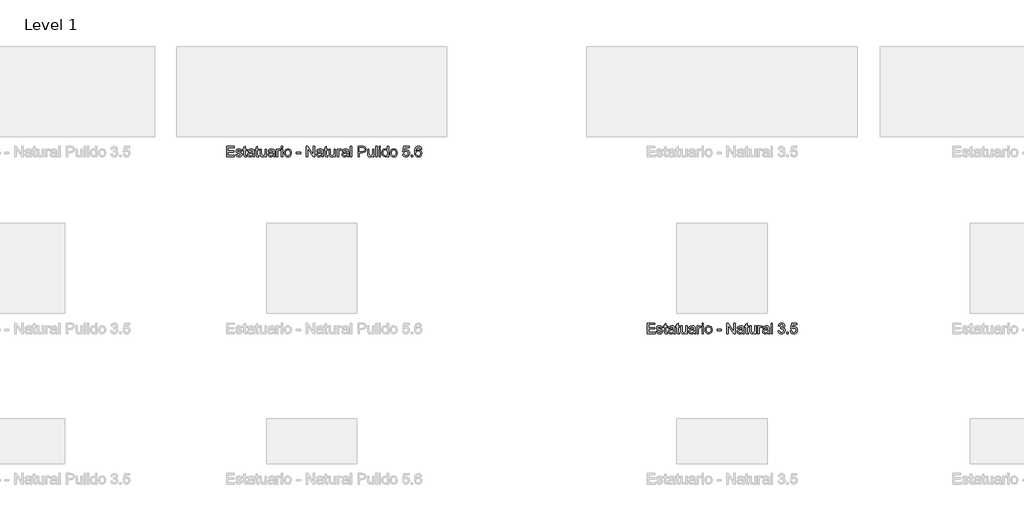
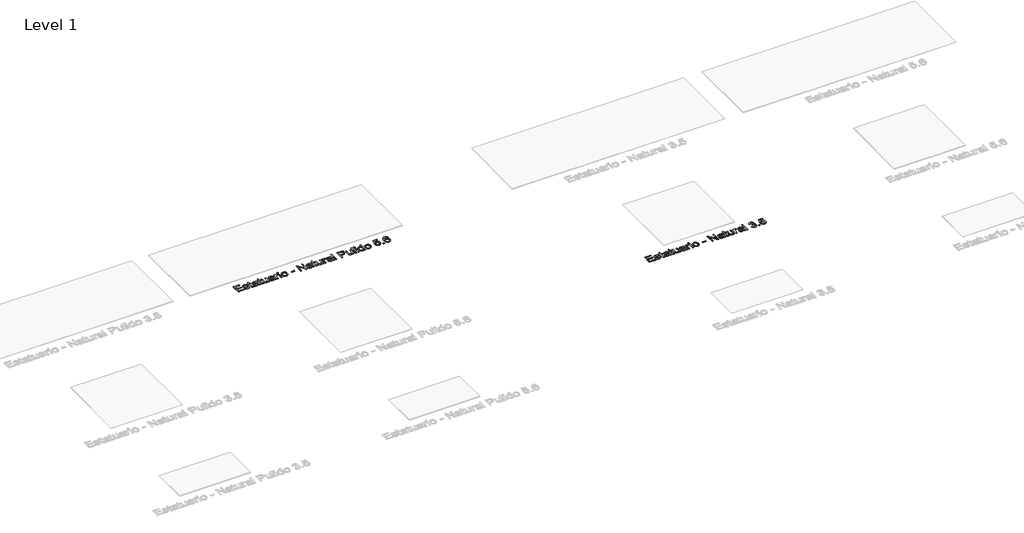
# One storey, part 78 of 80: 2 proxies.
"""IFC4 building model written with IfcOpenShell, lengths in millimetres."""

from ifc_helpers import new_model, si_unit, origin, origin_with_axes, place, context, project, spatial, polyline, outline, extrude, element, save

model = new_model("IFC4")

# Units and contexts
model_context = context("Model", 3, world=origin())
ifc_project = project(units=[si_unit("LENGTHUNIT", "METRE", prefix="MILLI")], contexts=[model_context])

# Site, building, storey
site = spatial("IfcSite", under=ifc_project)
building = spatial("IfcBuilding", under=site)
storey = spatial("IfcBuildingStorey", under=building, Name="Level 1", Elevation=0.0)

# Proxies
placement = place(None, origin())
element("IfcBuildingElementProxy", 1, Name="24\" Arial", ObjectType="24\" Arial", at=placement, inside=storey, context=model_context, shape_type="SweptSolid", body=[
    extrude(outline(polyline([(7830.1546613, 19224.0250725), (7830.1546613, 19342.1789187), (7915.0777383, 19342.1789187), (7915.0777383, 19327.4096879), (7844.9238921, 19327.4096879), (7844.9238921, 19292.3327648), (7911.3854306, 19292.3327648), (7911.3854306, 19277.563534), (7844.9238921, 19277.563534), (7844.9238921, 19238.7943033), (7916.9238921, 19238.7943033), (7916.9238921, 19224.0250725), (7830.1546613, 19224.0250725)])), origin_with_axes(), (0.0, 0.0, 1.0), 2.0),
    extrude(outline(polyline([(7931.6931229, 19249.8712264), (7946.4623536, 19251.7173802), (7953.2988921, 19240.7558417), (7968.9623536, 19236.9481494), (7984.0200459, 19240.438534), (7988.9238921, 19248.6308417), (7983.9911998, 19255.2654571), (7968.7892767, 19259.4769956), (7946.5488921, 19266.7029571), (7936.8421613, 19275.1404571), (7933.5392767, 19287.0539187), (7936.1931229, 19298.0587264), (7943.4335075, 19306.4673802), (7952.8229306, 19310.8375725), (7965.5296613, 19312.6404571), (7983.5008152, 19309.7414187), (7994.9238921, 19301.8952648), (8000.0008152, 19288.6404571), (7985.2315844, 19286.7943033), (7979.6786998, 19294.9433417), (7966.6835075, 19297.8712264), (7952.5488921, 19295.0731494), (7948.3085075, 19288.5539187), (7950.0681229, 19284.2558417), (7955.5777383, 19280.9962264), (7968.2988921, 19277.8519956), (7989.9767767, 19270.9000725), (8000.0440844, 19263.0250725), (8003.6931229, 19250.188534), (7999.409469, 19236.0539187), (7987.0488921, 19225.799111), (7968.7604306, 19222.1789187), (7953.8686036, 19223.924111), (7943.0008152, 19229.1596879), (7935.7460075, 19237.8279571), (7931.6931229, 19249.8712264)])), origin_with_axes(), (0.0, 0.0, 1.0), 2.0),
    extrude(outline(polyline([(8051.6931229, 19236.3423802), (8053.5392767, 19223.5923802), (8042.4911998, 19222.1789187), (8030.1161998, 19224.6308417), (8023.9431229, 19231.063534), (8022.1546613, 19247.8231494), (8022.1546613, 19296.0250725), (8011.0777383, 19296.0250725), (8011.0777383, 19310.7943033), (8022.1546613, 19310.7943033), (8022.1546613, 19331.8808417), (8036.9238921, 19340.563534), (8036.9238921, 19310.7943033), (8051.6931229, 19310.7943033), (8051.6931229, 19296.0250725), (8036.9238921, 19296.0250725), (8036.9238921, 19248.2558417), (8037.7027383, 19240.6404571), (8040.2267767, 19237.9433417), (8045.2604306, 19236.9481494), (8051.6931229, 19236.3423802)])), origin_with_axes(), (0.0, 0.0, 1.0), 2.0),
    extrude(outline(polyline([(8121.846969, 19235.1019956), (8107.5248536, 19225.0923802), (8091.7027383, 19222.1789187), (8079.3601902, 19223.9313225), (8070.2556229, 19229.188534), (8064.6414402, 19237.1717071), (8062.7700459, 19247.1019956), (8065.596969, 19258.7846879), (8073.0248536, 19267.2654571), (8083.3661998, 19272.111611), (8096.1450459, 19274.3327648), (8121.7604306, 19279.4096879), (8121.846969, 19282.6981494), (8117.7796613, 19293.6019956), (8101.4527383, 19297.8712264), (8086.5104306, 19295.0298802), (8079.3854306, 19284.9481494), (8064.6161998, 19286.7943033), (8071.0056229, 19301.2173802), (8083.8710075, 19309.6693033), (8103.3565844, 19312.6404571), (8121.2556229, 19310.0154571), (8131.3661998, 19303.424111), (8135.8950459, 19293.4000725), (8136.6161998, 19280.4769956), (8136.6161998, 19262.1019956), (8137.3661998, 19236.4433417), (8140.3085075, 19224.0250725), (8125.5392767, 19224.0250725), (8121.846969, 19235.1019956)]), holes=[polyline([(8121.846969, 19264.6404571), (8098.0200459, 19260.111611), (8085.3133152, 19257.7173802), (8079.5585075, 19253.8231494), (8077.5392767, 19248.1404571), (8081.9383152, 19240.1500725), (8094.846969, 19236.9481494), (8109.7892767, 19240.4818033), (8119.4238921, 19249.0346879), (8121.7604306, 19260.4577648), (8121.846969, 19264.6404571)])]), origin_with_axes(), (0.0, 0.0, 1.0), 2.0),
    extrude(outline(polyline([(8188.3085075, 19236.3423802), (8190.1546613, 19223.5923802), (8179.1065844, 19222.1789187), (8166.7315844, 19224.6308417), (8160.5585075, 19231.063534), (8158.7700459, 19247.8231494), (8158.7700459, 19296.0250725), (8147.6931229, 19296.0250725), (8147.6931229, 19310.7943033), (8158.7700459, 19310.7943033), (8158.7700459, 19331.8808417), (8173.5392767, 19340.563534), (8173.5392767, 19310.7943033), (8188.3085075, 19310.7943033), (8188.3085075, 19296.0250725), (8173.5392767, 19296.0250725), (8173.5392767, 19248.2558417), (8174.3181229, 19240.6404571), (8176.8421613, 19237.9433417), (8181.8758152, 19236.9481494), (8188.3085075, 19236.3423802)])), origin_with_axes(), (0.0, 0.0, 1.0), 2.0),
    extrude(outline(polyline([(8258.4623536, 19224.0250725), (8258.4623536, 19238.938534), (8246.8950459, 19226.3688225), (8231.8085075, 19222.1789187), (8217.9190844, 19225.1212264), (8208.3421613, 19232.5058417), (8203.9431229, 19243.3808417), (8203.0777383, 19257.111611), (8203.0777383, 19310.7943033), (8217.846969, 19310.7943033), (8217.846969, 19264.063534), (8218.7411998, 19249.0058417), (8224.5825459, 19240.1644956), (8235.5873536, 19236.9481494), (8247.9190844, 19240.236611), (8256.0681229, 19249.1933417), (8258.4623536, 19265.6500725), (8258.4623536, 19310.7943033), (8273.2315844, 19310.7943033), (8273.2315844, 19224.0250725), (8258.4623536, 19224.0250725)])), origin_with_axes(), (0.0, 0.0, 1.0), 2.0),
    extrude(outline(polyline([(8348.9238921, 19235.1019956), (8334.6017767, 19225.0923802), (8318.7796613, 19222.1789187), (8306.4371133, 19223.9313225), (8297.3325459, 19229.188534), (8291.7183633, 19237.1717071), (8289.846969, 19247.1019956), (8292.6738921, 19258.7846879), (8300.1017767, 19267.2654571), (8310.4431229, 19272.111611), (8323.221969, 19274.3327648), (8348.8373536, 19279.4096879), (8348.9238921, 19282.6981494), (8344.8565844, 19293.6019956), (8328.5296613, 19297.8712264), (8313.5873536, 19295.0298802), (8306.4623536, 19284.9481494), (8291.6931229, 19286.7943033), (8298.0825459, 19301.2173802), (8310.9479306, 19309.6693033), (8330.4335075, 19312.6404571), (8348.3325459, 19310.0154571), (8358.4431229, 19303.424111), (8362.971969, 19293.4000725), (8363.6931229, 19280.4769956), (8363.6931229, 19262.1019956), (8364.4431229, 19236.4433417), (8367.3854306, 19224.0250725), (8352.6161998, 19224.0250725), (8348.9238921, 19235.1019956)]), holes=[polyline([(8348.9238921, 19264.6404571), (8325.096969, 19260.111611), (8312.3902383, 19257.7173802), (8306.6354306, 19253.8231494), (8304.6161998, 19248.1404571), (8309.0152383, 19240.1500725), (8321.9238921, 19236.9481494), (8336.8661998, 19240.4818033), (8346.5008152, 19249.0346879), (8348.8373536, 19260.4577648), (8348.9238921, 19264.6404571)])]), origin_with_axes(), (0.0, 0.0, 1.0), 2.0),
    extrude(outline(polyline([(8384.0008152, 19224.0250725), (8384.0008152, 19310.7943033), (8396.9238921, 19310.7943033), (8396.9238921, 19297.9577648), (8406.096969, 19309.7846879), (8415.3277383, 19312.6404571), (8430.1546613, 19308.0827648), (8425.221969, 19294.8423802), (8414.8373536, 19297.8712264), (8406.4863921, 19294.9577648), (8401.1642767, 19286.8808417), (8398.7700459, 19269.6308417), (8398.7700459, 19224.0250725), (8384.0008152, 19224.0250725)])), origin_with_axes(), (0.0, 0.0, 1.0), 2.0),
    extrude(outline(polyline([(8439.3854306, 19327.4096879), (8439.3854306, 19342.1789187), (8454.1546613, 19342.1789187), (8454.1546613, 19327.4096879), (8439.3854306, 19327.4096879)])), origin_with_axes(), (0.0, 0.0, 1.0), 2.0),
    extrude(outline(polyline([(8439.3854306, 19224.0250725), (8439.3854306, 19310.7943033), (8454.1546613, 19310.7943033), (8454.1546613, 19224.0250725), (8439.3854306, 19224.0250725)])), origin_with_axes(), (0.0, 0.0, 1.0), 2.0),
    extrude(outline(polyline([(8472.6161998, 19267.4096879), (8475.8109113, 19288.330361), (8485.3950459, 19303.0346879), (8497.2363921, 19310.2390148), (8511.4142767, 19312.6404571), (8526.9299017, 19309.7161783), (8539.3229306, 19300.9433417), (8547.4467286, 19287.0142552), (8550.1546613, 19268.6212264), (8545.3661998, 19242.3423802), (8531.4190844, 19227.4721879), (8511.4142767, 19222.1789187), (8495.7111517, 19225.0923802), (8483.3325459, 19233.8327648), (8475.2952863, 19248.0539187), (8472.6161998, 19267.4096879)]), holes=[polyline([(8487.3854306, 19267.438534), (8489.0945652, 19254.0719475), (8494.221969, 19244.549111), (8501.9383152, 19238.8483898), (8511.4142767, 19236.9481494), (8520.846969, 19238.8592071), (8528.5488921, 19244.5923802), (8533.6762959, 19254.2414187), (8535.3854306, 19267.9000725), (8533.6654786, 19280.877236), (8528.5056229, 19290.2702648), (8520.7928825, 19295.970986), (8511.4142767, 19297.8712264), (8501.9383152, 19295.9781975), (8494.221969, 19290.299111), (8489.0945652, 19280.797909), (8487.3854306, 19267.438534)])]), origin_with_axes(), (0.0, 0.0, 1.0), 2.0),
    extrude(outline(polyline([(8605.5392767, 19259.1019956), (8605.5392767, 19273.8712264), (8651.6931229, 19273.8712264), (8651.6931229, 19259.1019956), (8605.5392767, 19259.1019956)])), origin_with_axes(), (0.0, 0.0, 1.0), 2.0),
    extrude(outline(polyline([(8716.3085075, 19224.0250725), (8716.3085075, 19342.1789187), (8732.1161998, 19342.1789187), (8793.846969, 19248.5731494), (8793.846969, 19342.1789187), (8808.6161998, 19342.1789187), (8808.6161998, 19224.0250725), (8792.8085075, 19224.0250725), (8731.0777383, 19317.6596879), (8731.0777383, 19224.0250725), (8716.3085075, 19224.0250725)])), origin_with_axes(), (0.0, 0.0, 1.0), 2.0),
    extrude(outline(polyline([(8888.0008152, 19235.1019956), (8873.6786998, 19225.0923802), (8857.8565844, 19222.1789187), (8845.5140363, 19223.9313225), (8836.409469, 19229.188534), (8830.7952863, 19237.1717071), (8828.9238921, 19247.1019956), (8831.7508152, 19258.7846879), (8839.1786998, 19267.2654571), (8849.5200459, 19272.111611), (8862.2988921, 19274.3327648), (8887.9142767, 19279.4096879), (8888.0008152, 19282.6981494), (8883.9335075, 19293.6019956), (8867.6065844, 19297.8712264), (8852.6642767, 19295.0298802), (8845.5392767, 19284.9481494), (8830.7700459, 19286.7943033), (8837.159469, 19301.2173802), (8850.0248536, 19309.6693033), (8869.5104306, 19312.6404571), (8887.409469, 19310.0154571), (8897.5200459, 19303.424111), (8902.0488921, 19293.4000725), (8902.7700459, 19280.4769956), (8902.7700459, 19262.1019956), (8903.5200459, 19236.4433417), (8906.4623536, 19224.0250725), (8891.6931229, 19224.0250725), (8888.0008152, 19235.1019956)]), holes=[polyline([(8888.0008152, 19264.6404571), (8864.1738921, 19260.111611), (8851.4671613, 19257.7173802), (8845.7123536, 19253.8231494), (8843.6931229, 19248.1404571), (8848.0921613, 19240.1500725), (8861.0008152, 19236.9481494), (8875.9431229, 19240.4818033), (8885.5777383, 19249.0346879), (8887.9142767, 19260.4577648), (8888.0008152, 19264.6404571)])]), origin_with_axes(), (0.0, 0.0, 1.0), 2.0),
    extrude(outline(polyline([(8954.4623536, 19236.3423802), (8956.3085075, 19223.5923802), (8945.2604306, 19222.1789187), (8932.8854306, 19224.6308417), (8926.7123536, 19231.063534), (8924.9238921, 19247.8231494), (8924.9238921, 19296.0250725), (8913.846969, 19296.0250725), (8913.846969, 19310.7943033), (8924.9238921, 19310.7943033), (8924.9238921, 19331.8808417), (8939.6931229, 19340.563534), (8939.6931229, 19310.7943033), (8954.4623536, 19310.7943033), (8954.4623536, 19296.0250725), (8939.6931229, 19296.0250725), (8939.6931229, 19248.2558417), (8940.471969, 19240.6404571), (8942.9960075, 19237.9433417), (8948.0296613, 19236.9481494), (8954.4623536, 19236.3423802)])), origin_with_axes(), (0.0, 0.0, 1.0), 2.0),
    extrude(outline(polyline([(9024.6161998, 19224.0250725), (9024.6161998, 19238.938534), (9013.0488921, 19226.3688225), (8997.9623536, 19222.1789187), (8984.0729306, 19225.1212264), (8974.4960075, 19232.5058417), (8970.096969, 19243.3808417), (8969.2315844, 19257.111611), (8969.2315844, 19310.7943033), (8984.0008152, 19310.7943033), (8984.0008152, 19264.063534), (8984.8950459, 19249.0058417), (8990.7363921, 19240.1644956), (9001.7411998, 19236.9481494), (9014.0729306, 19240.236611), (9022.221969, 19249.1933417), (9024.6161998, 19265.6500725), (9024.6161998, 19310.7943033), (9039.3854306, 19310.7943033), (9039.3854306, 19224.0250725), (9024.6161998, 19224.0250725)])), origin_with_axes(), (0.0, 0.0, 1.0), 2.0),
    extrude(outline(polyline([(9059.6931229, 19224.0250725), (9059.6931229, 19310.7943033), (9072.6161998, 19310.7943033), (9072.6161998, 19297.9577648), (9081.7892767, 19309.7846879), (9091.0200459, 19312.6404571), (9105.846969, 19308.0827648), (9100.9142767, 19294.8423802), (9090.5296613, 19297.8712264), (9082.1786998, 19294.9577648), (9076.8565844, 19286.8808417), (9074.4623536, 19269.6308417), (9074.4623536, 19224.0250725), (9059.6931229, 19224.0250725)])), origin_with_axes(), (0.0, 0.0, 1.0), 2.0),
    extrude(outline(polyline([(9170.4623536, 19235.1019956), (9156.1402383, 19225.0923802), (9140.3181229, 19222.1789187), (9127.9755748, 19223.9313225), (9118.8710075, 19229.188534), (9113.2568248, 19237.1717071), (9111.3854306, 19247.1019956), (9114.2123536, 19258.7846879), (9121.6402383, 19267.2654571), (9131.9815844, 19272.111611), (9144.7604306, 19274.3327648), (9170.3758152, 19279.4096879), (9170.4623536, 19282.6981494), (9166.3950459, 19293.6019956), (9150.0681229, 19297.8712264), (9135.1258152, 19295.0298802), (9128.0008152, 19284.9481494), (9113.2315844, 19286.7943033), (9119.6210075, 19301.2173802), (9132.4863921, 19309.6693033), (9151.971969, 19312.6404571), (9169.8710075, 19310.0154571), (9179.9815844, 19303.424111), (9184.5104306, 19293.4000725), (9185.2315844, 19280.4769956), (9185.2315844, 19262.1019956), (9185.9815844, 19236.4433417), (9188.9238921, 19224.0250725), (9174.1546613, 19224.0250725), (9170.4623536, 19235.1019956)]), holes=[polyline([(9170.4623536, 19264.6404571), (9146.6354306, 19260.111611), (9133.9286998, 19257.7173802), (9128.1738921, 19253.8231494), (9126.1546613, 19248.1404571), (9130.5536998, 19240.1500725), (9143.4623536, 19236.9481494), (9158.4046613, 19240.4818033), (9168.0392767, 19249.0346879), (9170.3758152, 19260.4577648), (9170.4623536, 19264.6404571)])]), origin_with_axes(), (0.0, 0.0, 1.0), 2.0),
    extrude(outline(polyline([(9205.5392767, 19224.0250725), (9205.5392767, 19342.1789187), (9220.3085075, 19342.1789187), (9220.3085075, 19224.0250725), (9205.5392767, 19224.0250725)])), origin_with_axes(), (0.0, 0.0, 1.0), 2.0),
    extrude(outline(polyline([(9290.4623536, 19224.0250725), (9290.4623536, 19342.1789187), (9334.2508152, 19342.1789187), (9351.9046613, 19341.0539187), (9366.2556229, 19335.5298802), (9375.5585075, 19324.1068033), (9379.0777383, 19307.9962264), (9376.7015363, 19294.0707456), (9369.5729306, 19282.4673802), (9356.2424017, 19274.6356494), (9335.2604306, 19272.0250725), (9305.2315844, 19272.0250725), (9305.2315844, 19224.0250725), (9290.4623536, 19224.0250725)]), holes=[polyline([(9305.2315844, 19286.7943033), (9336.1258152, 19286.7943033), (9349.221969, 19288.1500725), (9357.8758152, 19292.2173802), (9362.7003344, 19298.7438225), (9364.3085075, 19307.4769956), (9360.5152383, 19319.7077648), (9350.5488921, 19326.4000725), (9335.7796613, 19327.4096879), (9305.2315844, 19327.4096879), (9305.2315844, 19286.7943033)])]), origin_with_axes(), (0.0, 0.0, 1.0), 2.0),
    extrude(outline(polyline([(9452.9238921, 19224.0250725), (9452.9238921, 19238.938534), (9441.3565844, 19226.3688225), (9426.2700459, 19222.1789187), (9412.3806229, 19225.1212264), (9402.8036998, 19232.5058417), (9398.4046613, 19243.3808417), (9397.5392767, 19257.111611), (9397.5392767, 19310.7943033), (9412.3085075, 19310.7943033), (9412.3085075, 19264.063534), (9413.2027383, 19249.0058417), (9419.0440844, 19240.1644956), (9430.0488921, 19236.9481494), (9442.3806229, 19240.236611), (9450.5296613, 19249.1933417), (9452.9238921, 19265.6500725), (9452.9238921, 19310.7943033), (9467.6931229, 19310.7943033), (9467.6931229, 19224.0250725), (9452.9238921, 19224.0250725)])), origin_with_axes(), (0.0, 0.0, 1.0), 2.0),
    extrude(outline(polyline([(9488.0008152, 19224.0250725), (9488.0008152, 19342.1789187), (9502.7700459, 19342.1789187), (9502.7700459, 19224.0250725), (9488.0008152, 19224.0250725)])), origin_with_axes(), (0.0, 0.0, 1.0), 2.0),
    extrude(outline(polyline([(9524.9238921, 19327.4096879), (9524.9238921, 19342.1789187), (9539.6931229, 19342.1789187), (9539.6931229, 19327.4096879), (9524.9238921, 19327.4096879)])), origin_with_axes(), (0.0, 0.0, 1.0), 2.0),
    extrude(outline(polyline([(9524.9238921, 19224.0250725), (9524.9238921, 19310.7943033), (9539.6931229, 19310.7943033), (9539.6931229, 19224.0250725), (9524.9238921, 19224.0250725)])), origin_with_axes(), (0.0, 0.0, 1.0), 2.0),
    extrude(outline(polyline([(9615.3854306, 19224.0250725), (9615.3854306, 19237.9577648), (9605.6137959, 19226.1236302), (9592.1065844, 19222.1789187), (9573.8181229, 19227.8904571), (9560.8950459, 19243.8279571), (9556.3085075, 19267.3231494), (9560.534469, 19290.8327648), (9565.8133152, 19300.157284), (9573.1979306, 19307.0154571), (9592.0488921, 19312.6404571), (9605.6642767, 19308.6164187), (9615.3854306, 19298.1596879), (9615.3854306, 19342.1789187), (9630.1546613, 19342.1789187), (9630.1546613, 19224.0250725), (9615.3854306, 19224.0250725)]), holes=[polyline([(9571.0777383, 19267.3808417), (9572.7436036, 19254.0214667), (9577.7411998, 19244.5202648), (9585.003219, 19238.8411783), (9593.4623536, 19236.9481494), (9601.9178825, 19238.7546398), (9608.9960075, 19244.174111), (9613.7880748, 19253.3075244), (9615.3854306, 19266.2558417), (9613.7592286, 19280.4120917), (9608.8806229, 19290.2269956), (9601.6222094, 19295.9601687), (9592.8565844, 19297.8712264), (9584.3109113, 19296.0358898), (9577.3085075, 19290.5298802), (9572.6354306, 19281.0719475), (9571.0777383, 19267.3808417)])]), origin_with_axes(), (0.0, 0.0, 1.0), 2.0),
    extrude(outline(polyline([(9648.6161998, 19267.4096879), (9651.8109113, 19288.330361), (9661.3950459, 19303.0346879), (9673.2363921, 19310.2390148), (9687.4142767, 19312.6404571), (9702.9299017, 19309.7161783), (9715.3229306, 19300.9433417), (9723.4467286, 19287.0142552), (9726.1546613, 19268.6212264), (9721.3661998, 19242.3423802), (9707.4190844, 19227.4721879), (9687.4142767, 19222.1789187), (9671.7111517, 19225.0923802), (9659.3325459, 19233.8327648), (9651.2952863, 19248.0539187), (9648.6161998, 19267.4096879)]), holes=[polyline([(9663.3854306, 19267.438534), (9665.0945652, 19254.0719475), (9670.221969, 19244.549111), (9677.9383152, 19238.8483898), (9687.4142767, 19236.9481494), (9696.846969, 19238.8592071), (9704.5488921, 19244.5923802), (9709.6762959, 19254.2414187), (9711.3854306, 19267.9000725), (9709.6654786, 19280.877236), (9704.5056229, 19290.2702648), (9696.7928825, 19295.970986), (9687.4142767, 19297.8712264), (9677.9383152, 19295.9781975), (9670.221969, 19290.299111), (9665.0945652, 19280.797909), (9663.3854306, 19267.438534)])]), origin_with_axes(), (0.0, 0.0, 1.0), 2.0),
    extrude(outline(polyline([(9785.2315844, 19255.4096879), (9800.0008152, 19257.2558417), (9807.4431229, 19242.0394956), (9822.8758152, 19236.9481494), (9833.4623536, 19238.7185821), (9841.3950459, 19244.0298802), (9846.3493729, 19252.2690629), (9848.0008152, 19262.8231494), (9846.4539402, 19272.7606494), (9841.8133152, 19280.361611), (9834.0428825, 19285.1861302), (9823.1065844, 19286.7943033), (9810.1402383, 19284.2269956), (9801.846969, 19277.563534), (9787.0777383, 19279.4096879), (9800.0008152, 19340.3327648), (9857.2315844, 19340.3327648), (9857.2315844, 19325.563534), (9811.9431229, 19325.563534), (9805.6258152, 19293.0250725), (9816.1762959, 19299.4289187), (9827.2315844, 19301.563534), (9841.0308633, 19298.9168994), (9852.4863921, 19290.9769956), (9860.1991325, 19278.876034), (9862.7700459, 19263.7462264), (9860.4551421, 19248.9769956), (9853.5104306, 19236.3423802), (9840.2123536, 19225.719784), (9822.8181229, 19222.1789187), (9808.3121133, 19224.454159), (9796.7556229, 19231.2798802), (9788.8337479, 19241.8628129), (9785.2315844, 19255.4096879)])), origin_with_axes(), (0.0, 0.0, 1.0), 2.0),
    extrude(outline(polyline([(9883.0777383, 19224.0250725), (9883.0777383, 19238.7943033), (9897.846969, 19238.7943033), (9897.846969, 19224.0250725), (9883.0777383, 19224.0250725)])), origin_with_axes(), (0.0, 0.0, 1.0), 2.0),
    extrude(outline(polyline([(9997.5392767, 19310.7943033), (9982.7700459, 19308.9481494), (9977.1738921, 19321.2654571), (9970.4743729, 19325.8736302), (9962.3758152, 19327.4096879), (9949.0488921, 19323.8327648), (9938.9671613, 19310.4048802), (9934.7700459, 19284.0827648), (9947.7940844, 19295.8664187), (9963.9335075, 19299.7173802), (9977.5777383, 19297.0851687), (9989.0296613, 19289.188534), (9996.7964883, 19277.1236302), (9999.3854306, 19261.986611), (9994.5104306, 19241.6068033), (9981.096969, 19227.1837264), (9961.7411998, 19222.1789187), (9944.9851902, 19225.4962264), (9931.6402383, 19235.4481494), (9922.9106709, 19253.0154571), (9920.0008152, 19279.1789187), (9923.2315844, 19308.594784), (9932.9238921, 19328.7077648), (9946.1570652, 19338.8111302), (9963.2988921, 19342.1789187), (9976.2580267, 19340.094784), (9986.6354306, 19333.8423802), (9993.9046613, 19323.9120917), (9997.5392767, 19310.7943033)]), holes=[polyline([(9934.7700459, 19262.2173802), (9938.1883152, 19249.424111), (9947.2748536, 19240.1356494), (9960.5873536, 19236.9481494), (9970.3337479, 19238.5995917), (9977.9960075, 19243.5539187), (9982.9611517, 19251.3423802), (9984.6161998, 19261.4962264), (9982.9827863, 19271.2426206), (9978.0825459, 19278.674111), (9970.2904786, 19283.3796398), (9959.9815844, 19284.9481494), (9950.2496133, 19283.3796398), (9942.1113921, 19278.674111), (9936.6053825, 19271.422909), (9934.7700459, 19262.2173802)])]), origin_with_axes(), (0.0, 0.0, 1.0), 2.0),
])
element("IfcBuildingElementProxy", 2, Name="24\" Arial", ObjectType="24\" Arial", at=placement, inside=storey, context=model_context, shape_type="SweptSolid", body=[
    extrude(outline(polyline([(12503.6931229, 17258.6980297), (12503.6931229, 17376.8518759), (12588.6161998, 17376.8518759), (12588.6161998, 17362.0826451), (12518.4623536, 17362.0826451), (12518.4623536, 17327.005722), (12584.9238921, 17327.005722), (12584.9238921, 17312.2364912), (12518.4623536, 17312.2364912), (12518.4623536, 17273.4672605), (12590.4623536, 17273.4672605), (12590.4623536, 17258.6980297), (12503.6931229, 17258.6980297)])), origin_with_axes(), (0.0, 0.0, 1.0), 2.0),
    extrude(outline(polyline([(12605.2315844, 17284.5441836), (12620.0008152, 17286.3903374), (12626.8373536, 17275.4287989), (12642.5008152, 17271.6211066), (12657.5585075, 17275.1114912), (12662.4623536, 17283.3037989), (12657.5296613, 17289.9384143), (12642.3277383, 17294.1499528), (12620.0873536, 17301.3759143), (12610.3806229, 17309.8134143), (12607.0777383, 17321.7268759), (12609.7315844, 17332.7316836), (12616.971969, 17341.1403374), (12626.3613921, 17345.5105297), (12639.0681229, 17347.3134143), (12657.0392767, 17344.4143759), (12668.4623536, 17336.568222), (12673.5392767, 17323.3134143), (12658.7700459, 17321.4672605), (12653.2171613, 17329.6162989), (12640.221969, 17332.5441836), (12626.0873536, 17329.7461066), (12621.846969, 17323.2268759), (12623.6065844, 17318.9287989), (12629.1161998, 17315.6691836), (12641.8373536, 17312.5249528), (12663.5152383, 17305.5730297), (12673.5825459, 17297.6980297), (12677.2315844, 17284.8614912), (12672.9479306, 17270.7268759), (12660.5873536, 17260.4720682), (12642.2988921, 17256.8518759), (12627.4070652, 17258.5970682), (12616.5392767, 17263.8326451), (12609.284469, 17272.5009143), (12605.2315844, 17284.5441836)])), origin_with_axes(), (0.0, 0.0, 1.0), 2.0),
    extrude(outline(polyline([(12725.2315844, 17271.0153374), (12727.0777383, 17258.2653374), (12716.0296613, 17256.8518759), (12703.6546613, 17259.3037989), (12697.4815844, 17265.7364912), (12695.6931229, 17282.4961066), (12695.6931229, 17330.6980297), (12684.6161998, 17330.6980297), (12684.6161998, 17345.4672605), (12695.6931229, 17345.4672605), (12695.6931229, 17366.5537989), (12710.4623536, 17375.2364912), (12710.4623536, 17345.4672605), (12725.2315844, 17345.4672605), (12725.2315844, 17330.6980297), (12710.4623536, 17330.6980297), (12710.4623536, 17282.9287989), (12711.2411998, 17275.3134143), (12713.7652383, 17272.6162989), (12718.7988921, 17271.6211066), (12725.2315844, 17271.0153374)])), origin_with_axes(), (0.0, 0.0, 1.0), 2.0),
    extrude(outline(polyline([(12795.3854306, 17269.7749528), (12781.0633152, 17259.7653374), (12765.2411998, 17256.8518759), (12752.8986517, 17258.6042797), (12743.7940844, 17263.8614912), (12738.1799017, 17271.8446643), (12736.3085075, 17281.7749528), (12739.1354306, 17293.4576451), (12746.5633152, 17301.9384143), (12756.9046613, 17306.7845682), (12769.6835075, 17309.005722), (12795.2988921, 17314.0826451), (12795.3854306, 17317.3711066), (12791.3181229, 17328.2749528), (12774.9911998, 17332.5441836), (12760.0488921, 17329.7028374), (12752.9238921, 17319.6211066), (12738.1546613, 17321.4672605), (12744.5440844, 17335.8903374), (12757.409469, 17344.3422605), (12776.8950459, 17347.3134143), (12794.7940844, 17344.6884143), (12804.9046613, 17338.0970682), (12809.4335075, 17328.0730297), (12810.1546613, 17315.1499528), (12810.1546613, 17296.7749528), (12810.9046613, 17271.1162989), (12813.846969, 17258.6980297), (12799.0777383, 17258.6980297), (12795.3854306, 17269.7749528)]), holes=[polyline([(12795.3854306, 17299.3134143), (12771.5585075, 17294.7845682), (12758.8517767, 17292.3903374), (12753.096969, 17288.4961066), (12751.0777383, 17282.8134143), (12755.4767767, 17274.8230297), (12768.3854306, 17271.6211066), (12783.3277383, 17275.1547605), (12792.9623536, 17283.7076451), (12795.2988921, 17295.130722), (12795.3854306, 17299.3134143)])]), origin_with_axes(), (0.0, 0.0, 1.0), 2.0),
    extrude(outline(polyline([(12861.846969, 17271.0153374), (12863.6931229, 17258.2653374), (12852.6450459, 17256.8518759), (12840.2700459, 17259.3037989), (12834.096969, 17265.7364912), (12832.3085075, 17282.4961066), (12832.3085075, 17330.6980297), (12821.2315844, 17330.6980297), (12821.2315844, 17345.4672605), (12832.3085075, 17345.4672605), (12832.3085075, 17366.5537989), (12847.0777383, 17375.2364912), (12847.0777383, 17345.4672605), (12861.846969, 17345.4672605), (12861.846969, 17330.6980297), (12847.0777383, 17330.6980297), (12847.0777383, 17282.9287989), (12847.8565844, 17275.3134143), (12850.3806229, 17272.6162989), (12855.4142767, 17271.6211066), (12861.846969, 17271.0153374)])), origin_with_axes(), (0.0, 0.0, 1.0), 2.0),
    extrude(outline(polyline([(12932.0008152, 17258.6980297), (12932.0008152, 17273.6114912), (12920.4335075, 17261.0417797), (12905.346969, 17256.8518759), (12891.4575459, 17259.7941836), (12881.8806229, 17267.1787989), (12877.4815844, 17278.0537989), (12876.6161998, 17291.7845682), (12876.6161998, 17345.4672605), (12891.3854306, 17345.4672605), (12891.3854306, 17298.7364912), (12892.2796613, 17283.6787989), (12898.1210075, 17274.8374528), (12909.1258152, 17271.6211066), (12921.4575459, 17274.9095682), (12929.6065844, 17283.8662989), (12932.0008152, 17300.3230297), (12932.0008152, 17345.4672605), (12946.7700459, 17345.4672605), (12946.7700459, 17258.6980297), (12932.0008152, 17258.6980297)])), origin_with_axes(), (0.0, 0.0, 1.0), 2.0),
    extrude(outline(polyline([(13022.4623536, 17269.7749528), (13008.1402383, 17259.7653374), (12992.3181229, 17256.8518759), (12979.9755748, 17258.6042797), (12970.8710075, 17263.8614912), (12965.2568248, 17271.8446643), (12963.3854306, 17281.7749528), (12966.2123536, 17293.4576451), (12973.6402383, 17301.9384143), (12983.9815844, 17306.7845682), (12996.7604306, 17309.005722), (13022.3758152, 17314.0826451), (13022.4623536, 17317.3711066), (13018.3950459, 17328.2749528), (13002.0681229, 17332.5441836), (12987.1258152, 17329.7028374), (12980.0008152, 17319.6211066), (12965.2315844, 17321.4672605), (12971.6210075, 17335.8903374), (12984.4863921, 17344.3422605), (13003.971969, 17347.3134143), (13021.8710075, 17344.6884143), (13031.9815844, 17338.0970682), (13036.5104306, 17328.0730297), (13037.2315844, 17315.1499528), (13037.2315844, 17296.7749528), (13037.9815844, 17271.1162989), (13040.9238921, 17258.6980297), (13026.1546613, 17258.6980297), (13022.4623536, 17269.7749528)]), holes=[polyline([(13022.4623536, 17299.3134143), (12998.6354306, 17294.7845682), (12985.9286998, 17292.3903374), (12980.1738921, 17288.4961066), (12978.1546613, 17282.8134143), (12982.5536998, 17274.8230297), (12995.4623536, 17271.6211066), (13010.4046613, 17275.1547605), (13020.0392767, 17283.7076451), (13022.3758152, 17295.130722), (13022.4623536, 17299.3134143)])]), origin_with_axes(), (0.0, 0.0, 1.0), 2.0),
    extrude(outline(polyline([(13057.5392767, 17258.6980297), (13057.5392767, 17345.4672605), (13070.4623536, 17345.4672605), (13070.4623536, 17332.630722), (13079.6354306, 17344.4576451), (13088.8661998, 17347.3134143), (13103.6931229, 17342.755722), (13098.7604306, 17329.5153374), (13088.3758152, 17332.5441836), (13080.0248536, 17329.630722), (13074.7027383, 17321.5537989), (13072.3085075, 17304.3037989), (13072.3085075, 17258.6980297), (13057.5392767, 17258.6980297)])), origin_with_axes(), (0.0, 0.0, 1.0), 2.0),
    extrude(outline(polyline([(13112.9238921, 17362.0826451), (13112.9238921, 17376.8518759), (13127.6931229, 17376.8518759), (13127.6931229, 17362.0826451), (13112.9238921, 17362.0826451)])), origin_with_axes(), (0.0, 0.0, 1.0), 2.0),
    extrude(outline(polyline([(13112.9238921, 17258.6980297), (13112.9238921, 17345.4672605), (13127.6931229, 17345.4672605), (13127.6931229, 17258.6980297), (13112.9238921, 17258.6980297)])), origin_with_axes(), (0.0, 0.0, 1.0), 2.0),
    extrude(outline(polyline([(13146.1546613, 17302.0826451), (13149.3493729, 17323.0033182), (13158.9335075, 17337.7076451), (13170.7748536, 17344.911972), (13184.9527383, 17347.3134143), (13200.4683633, 17344.3891355), (13212.8613921, 17335.6162989), (13220.9851902, 17321.6872124), (13223.6931229, 17303.2941836), (13218.9046613, 17277.0153374), (13204.9575459, 17262.1451451), (13184.9527383, 17256.8518759), (13169.2496133, 17259.7653374), (13156.8710075, 17268.505722), (13148.8337479, 17282.7268759), (13146.1546613, 17302.0826451)]), holes=[polyline([(13160.9238921, 17302.1114912), (13162.6330267, 17288.7449047), (13167.7604306, 17279.2220682), (13175.4767767, 17273.521347), (13184.9527383, 17271.6211066), (13194.3854306, 17273.5321643), (13202.0873536, 17279.2653374), (13207.2147575, 17288.9143759), (13208.9238921, 17302.5730297), (13207.2039402, 17315.5501932), (13202.0440844, 17324.943222), (13194.331344, 17330.6439432), (13184.9527383, 17332.5441836), (13175.4767767, 17330.6511547), (13167.7604306, 17324.9720682), (13162.6330267, 17315.4708662), (13160.9238921, 17302.1114912)])]), origin_with_axes(), (0.0, 0.0, 1.0), 2.0),
    extrude(outline(polyline([(13279.0777383, 17293.7749528), (13279.0777383, 17308.5441836), (13325.2315844, 17308.5441836), (13325.2315844, 17293.7749528), (13279.0777383, 17293.7749528)])), origin_with_axes(), (0.0, 0.0, 1.0), 2.0),
    extrude(outline(polyline([(13389.846969, 17258.6980297), (13389.846969, 17376.8518759), (13405.6546613, 17376.8518759), (13467.3854306, 17283.2461066), (13467.3854306, 17376.8518759), (13482.1546613, 17376.8518759), (13482.1546613, 17258.6980297), (13466.346969, 17258.6980297), (13404.6161998, 17352.3326451), (13404.6161998, 17258.6980297), (13389.846969, 17258.6980297)])), origin_with_axes(), (0.0, 0.0, 1.0), 2.0),
    extrude(outline(polyline([(13561.5392767, 17269.7749528), (13547.2171613, 17259.7653374), (13531.3950459, 17256.8518759), (13519.0524979, 17258.6042797), (13509.9479306, 17263.8614912), (13504.3337479, 17271.8446643), (13502.4623536, 17281.7749528), (13505.2892767, 17293.4576451), (13512.7171613, 17301.9384143), (13523.0585075, 17306.7845682), (13535.8373536, 17309.005722), (13561.4527383, 17314.0826451), (13561.5392767, 17317.3711066), (13557.471969, 17328.2749528), (13541.1450459, 17332.5441836), (13526.2027383, 17329.7028374), (13519.0777383, 17319.6211066), (13504.3085075, 17321.4672605), (13510.6979306, 17335.8903374), (13523.5633152, 17344.3422605), (13543.0488921, 17347.3134143), (13560.9479306, 17344.6884143), (13571.0585075, 17338.0970682), (13575.5873536, 17328.0730297), (13576.3085075, 17315.1499528), (13576.3085075, 17296.7749528), (13577.0585075, 17271.1162989), (13580.0008152, 17258.6980297), (13565.2315844, 17258.6980297), (13561.5392767, 17269.7749528)]), holes=[polyline([(13561.5392767, 17299.3134143), (13537.7123536, 17294.7845682), (13525.0056229, 17292.3903374), (13519.2508152, 17288.4961066), (13517.2315844, 17282.8134143), (13521.6306229, 17274.8230297), (13534.5392767, 17271.6211066), (13549.4815844, 17275.1547605), (13559.1161998, 17283.7076451), (13561.4527383, 17295.130722), (13561.5392767, 17299.3134143)])]), origin_with_axes(), (0.0, 0.0, 1.0), 2.0),
    extrude(outline(polyline([(13628.0008152, 17271.0153374), (13629.846969, 17258.2653374), (13618.7988921, 17256.8518759), (13606.4238921, 17259.3037989), (13600.2508152, 17265.7364912), (13598.4623536, 17282.4961066), (13598.4623536, 17330.6980297), (13587.3854306, 17330.6980297), (13587.3854306, 17345.4672605), (13598.4623536, 17345.4672605), (13598.4623536, 17366.5537989), (13613.2315844, 17375.2364912), (13613.2315844, 17345.4672605), (13628.0008152, 17345.4672605), (13628.0008152, 17330.6980297), (13613.2315844, 17330.6980297), (13613.2315844, 17282.9287989), (13614.0104306, 17275.3134143), (13616.534469, 17272.6162989), (13621.5681229, 17271.6211066), (13628.0008152, 17271.0153374)])), origin_with_axes(), (0.0, 0.0, 1.0), 2.0),
    extrude(outline(polyline([(13698.1546613, 17258.6980297), (13698.1546613, 17273.6114912), (13686.5873536, 17261.0417797), (13671.5008152, 17256.8518759), (13657.6113921, 17259.7941836), (13648.034469, 17267.1787989), (13643.6354306, 17278.0537989), (13642.7700459, 17291.7845682), (13642.7700459, 17345.4672605), (13657.5392767, 17345.4672605), (13657.5392767, 17298.7364912), (13658.4335075, 17283.6787989), (13664.2748536, 17274.8374528), (13675.2796613, 17271.6211066), (13687.6113921, 17274.9095682), (13695.7604306, 17283.8662989), (13698.1546613, 17300.3230297), (13698.1546613, 17345.4672605), (13712.9238921, 17345.4672605), (13712.9238921, 17258.6980297), (13698.1546613, 17258.6980297)])), origin_with_axes(), (0.0, 0.0, 1.0), 2.0),
    extrude(outline(polyline([(13733.2315844, 17258.6980297), (13733.2315844, 17345.4672605), (13746.1546613, 17345.4672605), (13746.1546613, 17332.630722), (13755.3277383, 17344.4576451), (13764.5585075, 17347.3134143), (13779.3854306, 17342.755722), (13774.4527383, 17329.5153374), (13764.0681229, 17332.5441836), (13755.7171613, 17329.630722), (13750.3950459, 17321.5537989), (13748.0008152, 17304.3037989), (13748.0008152, 17258.6980297), (13733.2315844, 17258.6980297)])), origin_with_axes(), (0.0, 0.0, 1.0), 2.0),
    extrude(outline(polyline([(13844.0008152, 17269.7749528), (13829.6786998, 17259.7653374), (13813.8565844, 17256.8518759), (13801.5140363, 17258.6042797), (13792.409469, 17263.8614912), (13786.7952863, 17271.8446643), (13784.9238921, 17281.7749528), (13787.7508152, 17293.4576451), (13795.1786998, 17301.9384143), (13805.5200459, 17306.7845682), (13818.2988921, 17309.005722), (13843.9142767, 17314.0826451), (13844.0008152, 17317.3711066), (13839.9335075, 17328.2749528), (13823.6065844, 17332.5441836), (13808.6642767, 17329.7028374), (13801.5392767, 17319.6211066), (13786.7700459, 17321.4672605), (13793.159469, 17335.8903374), (13806.0248536, 17344.3422605), (13825.5104306, 17347.3134143), (13843.409469, 17344.6884143), (13853.5200459, 17338.0970682), (13858.0488921, 17328.0730297), (13858.7700459, 17315.1499528), (13858.7700459, 17296.7749528), (13859.5200459, 17271.1162989), (13862.4623536, 17258.6980297), (13847.6931229, 17258.6980297), (13844.0008152, 17269.7749528)]), holes=[polyline([(13844.0008152, 17299.3134143), (13820.1738921, 17294.7845682), (13807.4671613, 17292.3903374), (13801.7123536, 17288.4961066), (13799.6931229, 17282.8134143), (13804.0921613, 17274.8230297), (13817.0008152, 17271.6211066), (13831.9431229, 17275.1547605), (13841.5777383, 17283.7076451), (13843.9142767, 17295.130722), (13844.0008152, 17299.3134143)])]), origin_with_axes(), (0.0, 0.0, 1.0), 2.0),
    extrude(outline(polyline([(13879.0777383, 17258.6980297), (13879.0777383, 17376.8518759), (13893.846969, 17376.8518759), (13893.846969, 17258.6980297), (13879.0777383, 17258.6980297)])), origin_with_axes(), (0.0, 0.0, 1.0), 2.0),
    extrude(outline(polyline([(13958.4623536, 17290.0826451), (13973.2315844, 17291.9287989), (13981.3806229, 17276.380722), (13996.6258152, 17271.6211066), (14006.7508152, 17273.2581259), (14014.5681229, 17278.1691836), (14019.565719, 17285.4961066), (14021.2315844, 17294.380722), (14019.5801421, 17302.8146162), (14014.6258152, 17309.6547605), (14007.1258152, 17314.1872124), (13997.8373536, 17315.6980297), (13987.4815844, 17314.0826451), (13989.1258152, 17328.8518759), (13991.4911998, 17328.6787989), (14008.2508152, 17332.9191836), (14013.8325459, 17338.2989912), (14015.6931229, 17345.9576451), (14010.2988921, 17357.5105297), (13996.3950459, 17362.0826451), (13982.3181229, 17357.4672605), (13975.0777383, 17343.6211066), (13960.3085075, 17345.4672605), (13964.6570652, 17358.7292797), (13972.3950459, 17368.630722), (13982.9815844, 17374.7965874), (13995.8758152, 17376.8518759), (14013.6883152, 17372.7989912), (14026.1498536, 17361.7220682), (14030.4623536, 17346.8230297), (14026.3661998, 17333.2076451), (14014.2508152, 17323.4287989), (14023.4960075, 17319.693222), (14030.346969, 17313.3326451), (14034.5873536, 17304.693222), (14036.0008152, 17294.1211066), (14033.1738921, 17279.7268759), (14024.6931229, 17267.6980297), (14011.8926421, 17259.5634143), (13996.1065844, 17256.8518759), (13981.8277383, 17259.1667797), (13970.2027383, 17266.1114912), (13962.1186036, 17276.7340874), (13958.4623536, 17290.0826451)])), origin_with_axes(), (0.0, 0.0, 1.0), 2.0),
    extrude(outline(polyline([(14056.3085075, 17258.6980297), (14056.3085075, 17273.4672605), (14071.0777383, 17273.4672605), (14071.0777383, 17258.6980297), (14056.3085075, 17258.6980297)])), origin_with_axes(), (0.0, 0.0, 1.0), 2.0),
    extrude(outline(polyline([(14095.0777383, 17290.0826451), (14109.846969, 17291.9287989), (14117.2892767, 17276.7124528), (14132.721969, 17271.6211066), (14143.3085075, 17273.3915393), (14151.2411998, 17278.7028374), (14156.1955267, 17286.9420201), (14157.846969, 17297.4961066), (14156.300094, 17307.4336066), (14151.659469, 17315.0345682), (14143.8890363, 17319.8590874), (14132.9527383, 17321.4672605), (14119.9863921, 17318.8999528), (14111.6931229, 17312.2364912), (14096.9238921, 17314.0826451), (14109.846969, 17375.005722), (14167.0777383, 17375.005722), (14167.0777383, 17360.2364912), (14121.7892767, 17360.2364912), (14115.471969, 17327.6980297), (14126.0224498, 17334.1018759), (14137.0777383, 17336.2364912), (14150.8770171, 17333.5898566), (14162.3325459, 17325.6499528), (14170.0452863, 17313.5489912), (14172.6161998, 17298.4191836), (14170.3012959, 17283.6499528), (14163.3565844, 17271.0153374), (14150.0585075, 17260.3927412), (14132.6642767, 17256.8518759), (14118.1582671, 17259.1271162), (14106.6017767, 17265.9528374), (14098.6799017, 17276.5357701), (14095.0777383, 17290.0826451)])), origin_with_axes(), (0.0, 0.0, 1.0), 2.0),
])

save(model, "model.ifc")
